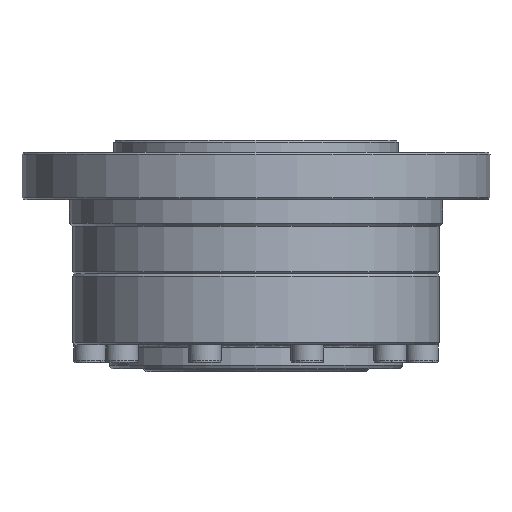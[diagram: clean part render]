
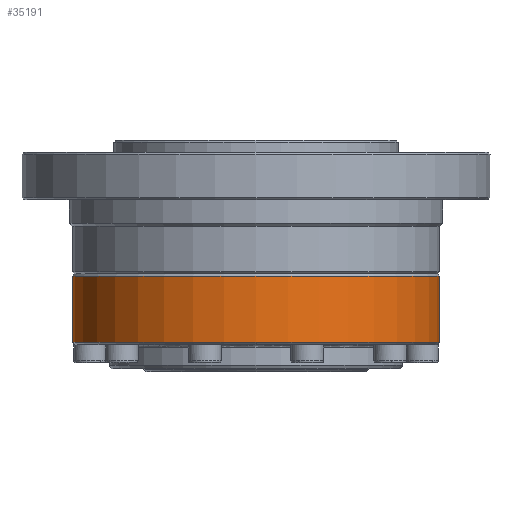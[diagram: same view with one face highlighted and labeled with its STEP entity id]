
A CAD part, front view. The second image highlights one B-rep face of the part: STEP entity #35191.
In plain terms, the highlighted cylindrical face has radius 31 mm (diameter 62 mm), a partial arc.
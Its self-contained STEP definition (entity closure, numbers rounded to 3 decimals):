
#325 = CIRCLE ( 'NONE', #52259, 31. ) ;
#1069 = AXIS2_PLACEMENT_3D ( 'NONE', #47552, #52919, #4644 ) ;
#1521 = VECTOR ( 'NONE', #31745, 1000. ) ;
#2185 = ORIENTED_EDGE ( 'NONE', *, *, #59251, .T. ) ;
#2348 = VERTEX_POINT ( 'NONE', #9019 ) ;
#2759 = CARTESIAN_POINT ( 'NONE',  ( 31., 0., -8.25 ) ) ;
#4644 = DIRECTION ( 'NONE',  ( -1., 0., 0. ) ) ;
#4744 = ORIENTED_EDGE ( 'NONE', *, *, #30984, .T. ) ;
#8110 = VECTOR ( 'NONE', #40307, 1000. ) ;
#9019 = CARTESIAN_POINT ( 'NONE',  ( -31., 0., 7.85 ) ) ;
#11048 = CARTESIAN_POINT ( 'NONE',  ( 0., 0., -3.35 ) ) ;
#15171 = CARTESIAN_POINT ( 'NONE',  ( 0., 0., 7.85 ) ) ;
#16432 = DIRECTION ( 'NONE',  ( -1., 0., 0. ) ) ;
#17488 = LINE ( 'NONE', #42288, #1521 ) ;
#20614 = DIRECTION ( 'NONE',  ( -1., 0., 0. ) ) ;
#21761 = DIRECTION ( 'NONE',  ( 0., 0., 1. ) ) ;
#24130 = ORIENTED_EDGE ( 'NONE', *, *, #45394, .T. ) ;
#26060 = VERTEX_POINT ( 'NONE', #34522 ) ;
#26627 = ORIENTED_EDGE ( 'NONE', *, *, #42272, .T. ) ;
#30817 = ORIENTED_EDGE ( 'NONE', *, *, #56201, .F. ) ;
#30984 = EDGE_CURVE ( 'NONE', #2348, #57643, #17488, .T. ) ;
#31745 = DIRECTION ( 'NONE',  ( 0., 0., -1. ) ) ;
#34078 = EDGE_LOOP ( 'NONE', ( #30817, #24130, #4744, #2185, #26627 ) ) ;
#34522 = CARTESIAN_POINT ( 'NONE',  ( 31., 0., 7.85 ) ) ;
#35191 = ADVANCED_FACE ( 'n?2', ( #59727 ), #58093, .T. ) ;
#38939 = CARTESIAN_POINT ( 'NONE',  ( 0., -31., -3.35 ) ) ;
#40307 = DIRECTION ( 'NONE',  ( 0., 0., -1. ) ) ;
#40777 = CIRCLE ( 'NONE', #47606, 31. ) ;
#42272 = EDGE_CURVE ( 'NONE', #46689, #55253, #68446, .T. ) ;
#42288 = CARTESIAN_POINT ( 'NONE',  ( -31., 0., -8.25 ) ) ;
#44463 = CARTESIAN_POINT ( 'NONE',  ( 31., 0., -3.35 ) ) ;
#45394 = EDGE_CURVE ( 'NONE', #26060, #2348, #40777, .T. ) ;
#46689 = VERTEX_POINT ( 'NONE', #38939 ) ;
#47552 = CARTESIAN_POINT ( 'NONE',  ( 0., 0., -8.25 ) ) ;
#47606 = AXIS2_PLACEMENT_3D ( 'NONE', #15171, #52640, #20614 ) ;
#48536 = DIRECTION ( 'NONE',  ( 0., 0., 1. ) ) ;
#49221 = LINE ( 'NONE', #2759, #8110 ) ;
#52259 = AXIS2_PLACEMENT_3D ( 'NONE', #11048, #48536, #16432 ) ;
#52640 = DIRECTION ( 'NONE',  ( 0., 0., -1. ) ) ;
#52919 = DIRECTION ( 'NONE',  ( 0., 0., -1. ) ) ;
#53735 = CARTESIAN_POINT ( 'NONE',  ( 0., 0., -3.35 ) ) ;
#55253 = VERTEX_POINT ( 'NONE', #44463 ) ;
#56201 = EDGE_CURVE ( 'NONE', #26060, #55253, #49221, .T. ) ;
#57643 = VERTEX_POINT ( 'NONE', #69092 ) ;
#58093 = CYLINDRICAL_SURFACE ( 'NONE', #1069, 31. ) ;
#59038 = DIRECTION ( 'NONE',  ( -1., 0., 0. ) ) ;
#59251 = EDGE_CURVE ( 'NONE', #57643, #46689, #325, .T. ) ;
#59727 = FACE_OUTER_BOUND ( 'NONE', #34078, .T. ) ;
#63223 = AXIS2_PLACEMENT_3D ( 'NONE', #53735, #21761, #59038 ) ;
#68446 = CIRCLE ( 'NONE', #63223, 31. ) ;
#69092 = CARTESIAN_POINT ( 'NONE',  ( -31., 0., -3.35 ) ) ;
